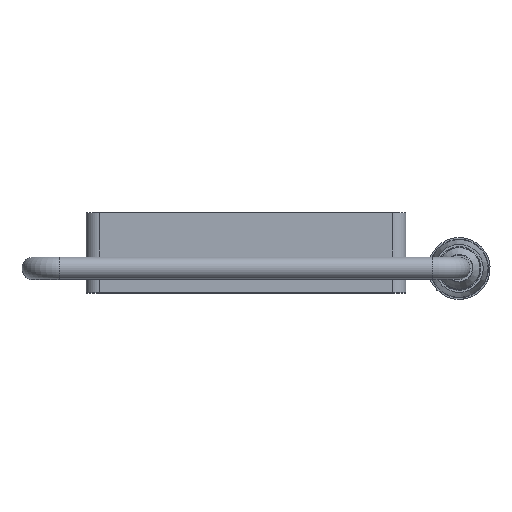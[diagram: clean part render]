
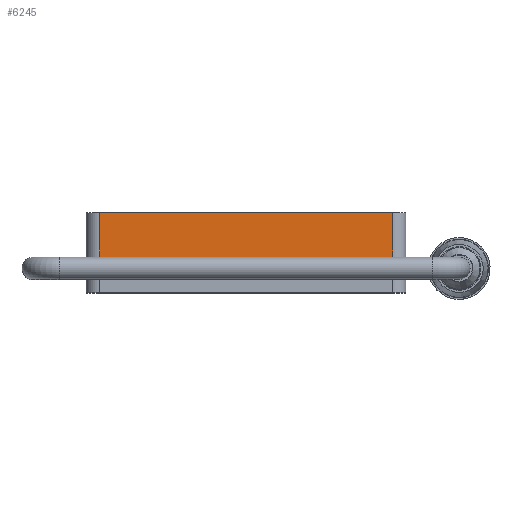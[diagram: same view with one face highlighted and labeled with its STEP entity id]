
A CAD part, top view. The second image highlights one B-rep face of the part: STEP entity #6245.
In plain terms, the highlighted planar face has unit normal (0, 0, 1) as drawn and (0, 0, -1) by its records, which use the part's own axes.
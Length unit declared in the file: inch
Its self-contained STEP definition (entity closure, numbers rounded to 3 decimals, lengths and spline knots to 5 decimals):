
#130 = EDGE_CURVE ( 'NONE', #5621, #11225, #11205, .T. ) ;
#514 = VECTOR ( 'NONE', #1250, 39.37008 ) ;
#593 = EDGE_CURVE ( 'NONE', #11225, #8235, #7584, .T. ) ;
#951 = LINE ( 'NONE', #9920, #7171 ) ;
#1104 = DIRECTION ( 'NONE',  ( 1., 0., 0. ) ) ;
#1250 = DIRECTION ( 'NONE',  ( -1., 0., 0. ) ) ;
#2134 = ORIENTED_EDGE ( 'NONE', *, *, #130, .T. ) ;
#2171 = VECTOR ( 'NONE', #9595, 39.37008 ) ;
#2537 = ORIENTED_EDGE ( 'NONE', *, *, #593, .T. ) ;
#2935 = CARTESIAN_POINT ( 'NONE',  ( -1.5, 0.3125, -1.5 ) ) ;
#3035 = CARTESIAN_POINT ( 'NONE',  ( -1.5, -0.3125, -1.5 ) ) ;
#3655 = LINE ( 'NONE', #9798, #6765 ) ;
#3995 = ORIENTED_EDGE ( 'NONE', *, *, #5959, .T. ) ;
#5002 = ORIENTED_EDGE ( 'NONE', *, *, #5172, .F. ) ;
#5159 = CARTESIAN_POINT ( 'NONE',  ( 1.375, 0.3125, -1.5 ) ) ;
#5172 = EDGE_CURVE ( 'NONE', #5621, #9496, #3655, .T. ) ;
#5241 = EDGE_LOOP ( 'NONE', ( #5002, #2134, #2537, #3995 ) ) ;
#5365 = CARTESIAN_POINT ( 'NONE',  ( 1.375, 0.3125, -1.5 ) ) ;
#5621 = VERTEX_POINT ( 'NONE', #5365 ) ;
#5959 = EDGE_CURVE ( 'NONE', #8235, #9496, #951, .T. ) ;
#6106 = CARTESIAN_POINT ( 'NONE',  ( -1.375, 0.3125, -1.5 ) ) ;
#6245 = ADVANCED_FACE ( 'NONE', ( #7377 ), #10811, .F. ) ;
#6576 = DIRECTION ( 'NONE',  ( 0., 0., 1. ) ) ;
#6765 = VECTOR ( 'NONE', #9916, 39.37008 ) ;
#6801 = CARTESIAN_POINT ( 'NONE',  ( -1.375, -0.3125, -1.5 ) ) ;
#7171 = VECTOR ( 'NONE', #9744, 39.37008 ) ;
#7377 = FACE_OUTER_BOUND ( 'NONE', #5241, .T. ) ;
#7468 = AXIS2_PLACEMENT_3D ( 'NONE', #2935, #6576, #1104 ) ;
#7584 = LINE ( 'NONE', #3035, #514 ) ;
#7933 = CARTESIAN_POINT ( 'NONE',  ( 1.375, -0.3125, -1.5 ) ) ;
#8235 = VERTEX_POINT ( 'NONE', #6801 ) ;
#9496 = VERTEX_POINT ( 'NONE', #6106 ) ;
#9595 = DIRECTION ( 'NONE',  ( 0., -1., 0. ) ) ;
#9744 = DIRECTION ( 'NONE',  ( 0., 1., 0. ) ) ;
#9798 = CARTESIAN_POINT ( 'NONE',  ( -1.5, 0.3125, -1.5 ) ) ;
#9916 = DIRECTION ( 'NONE',  ( -1., 0., 0. ) ) ;
#9920 = CARTESIAN_POINT ( 'NONE',  ( -1.375, 0.3125, -1.5 ) ) ;
#10811 = PLANE ( 'NONE',  #7468 ) ;
#11205 = LINE ( 'NONE', #5159, #2171 ) ;
#11225 = VERTEX_POINT ( 'NONE', #7933 ) ;
